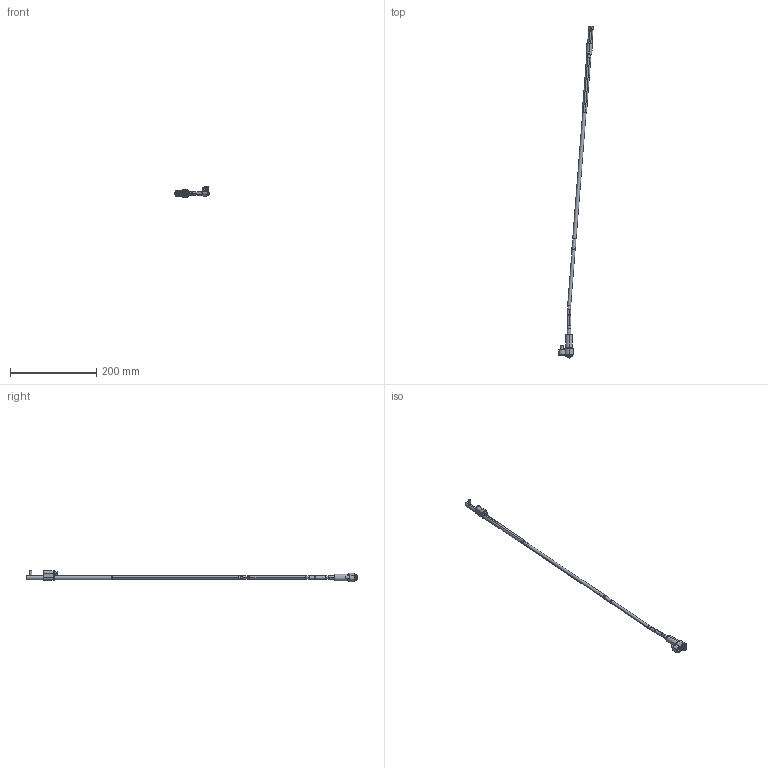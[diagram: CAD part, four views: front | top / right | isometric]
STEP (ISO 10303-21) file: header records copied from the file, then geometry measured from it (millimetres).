
FILE_DESCRIPTION (( 'STEP AP214' ), '1' );
FILE_NAME ('WL080125-EJE 4,5°.STEP', '2021-03-19T15:29:31', ( '' ), ( '' ), 'SwSTEP 2.0', 'SolidWorks 2019', '' );
FILE_SCHEMA (( 'AUTOMOTIVE_DESIGN' ));
Length unit declared in the file: millimetre
Products named in the file (17): WL080100-D; WL080125-EJE 4,5°; WL080100-E; WL080100-C; 3IMAN4X2-150_con sello; Web-WL08-F00.SLDPRT; 9DR2206-TOR; WL080100-B_WL0800FF; Web-WL08XX-A7_ON-WL080125-4,5; Web-WP08-1; Web-WL08-A3; Web-WL08-F01; WL080100-B1_WL0800FF-1; 1DIN912616_DIN 912 M6 x 16 --- 16C; Web-WL08-A2; 1DIN912545_DIN 912 M5 x 50 --- 50C; Web-WL08-A1
Assembly tree (16 placements, depth 3):
  WL080125-EJE 4,5°
    Web-WP08-1
    Web-WL08XX-A7_ON-WL080125-4,5
    Web-WL08-A3
    Web-WL08-A2
    Web-WL08-A1
    WL080100-D
    WL080100-C
    WL080100-B_WL0800FF
      WL080100-B1_WL0800FF-1
      3IMAN4X2-150_con sello
    WL080100-E
    9DR2206-TOR
    Web-WL08-F00.SLDPRT
      Web-WL08-F01
      1DIN912545_DIN 912 M5 x 50 --- 50C
      1DIN912616_DIN 912 M6 x 16 --- 16C
Bounding box: 80.23 x 770.35 x 26.9 mm (x, y, z)
Volume: 58701.5 mm3; surface area: 34415.9 mm2
Topology: 15 solids, 15 shells, 424 faces, 888 edges, 516 vertices
Faces by surface type: plane 132, cylinder 128, cone 116, torus 48
Entity records: 13492 total; most frequent: DIRECTION 2218, CARTESIAN_POINT 2045, ORIENTED_EDGE 1756, AXIS2_PLACEMENT_3D 921, EDGE_CURVE 878, VERTEX_POINT 516, CIRCLE 476, EDGE_LOOP 468
